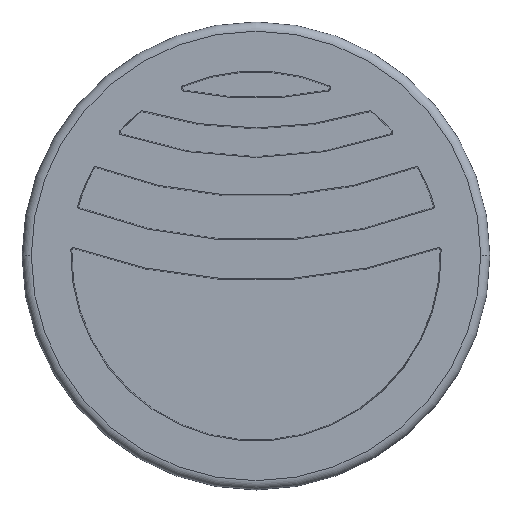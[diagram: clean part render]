
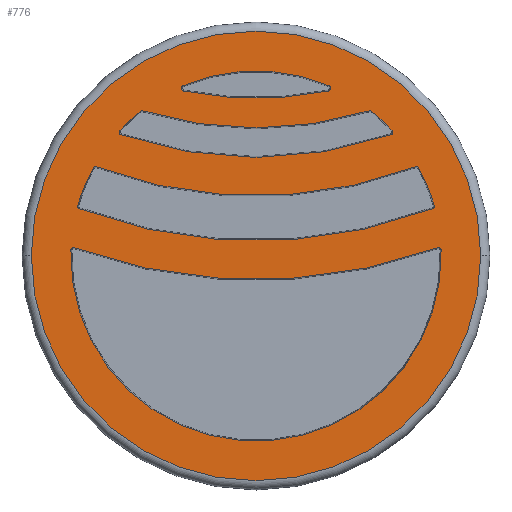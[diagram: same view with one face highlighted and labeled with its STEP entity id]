
A CAD part, top view. The second image highlights one B-rep face of the part: STEP entity #776.
In plain terms, the highlighted planar face has unit normal (0, 0, 1).
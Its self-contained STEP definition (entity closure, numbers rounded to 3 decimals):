
#117=CARTESIAN_POINT('',(-8.714,4.699,1.5));
#118=DIRECTION('',(0.,0.,-1.));
#119=DIRECTION('',(-0.88,0.475,0.));
#120=AXIS2_PLACEMENT_3D('',#117,#118,#119);
#166=CARTESIAN_POINT('',(0.,0.,1.5));
#167=DIRECTION('',(0.,0.,-1.));
#168=DIRECTION('',(1.,0.03,0.));
#169=AXIS2_PLACEMENT_3D('',#166,#167,#168);
#180=CARTESIAN_POINT('',(-9.523,2.706,1.5));
#181=DIRECTION('',(0.,0.,-1.));
#182=DIRECTION('',(-0.355,-0.935,0.));
#183=AXIS2_PLACEMENT_3D('',#180,#181,#182);
#193=CARTESIAN_POINT('',(9.523,2.706,1.5));
#194=DIRECTION('',(0.,0.,-1.));
#195=DIRECTION('',(0.962,0.273,0.));
#196=AXIS2_PLACEMENT_3D('',#193,#194,#195);
#198=CARTESIAN_POINT('',(0.,0.,1.5));
#199=DIRECTION('',(0.,0.,1.));
#200=DIRECTION('',(-1.,0.,0.));
#201=AXIS2_PLACEMENT_3D('',#198,#199,#200);
#203=CARTESIAN_POINT('',(0.,0.,1.5));
#204=DIRECTION('',(0.,0.,1.));
#205=DIRECTION('',(1.,0.,0.));
#206=AXIS2_PLACEMENT_3D('',#203,#204,#205);
#208=CARTESIAN_POINT('',(0.,0.,1.5));
#209=DIRECTION('',(0.,0.,-1.));
#210=DIRECTION('',(0.625,0.781,0.));
#211=AXIS2_PLACEMENT_3D('',#208,#209,#210);
#213=CARTESIAN_POINT('',(0.,27.8,1.5));
#214=DIRECTION('',(0.,0.,1.));
#215=DIRECTION('',(-0.294,-0.956,0.));
#216=AXIS2_PLACEMENT_3D('',#213,#214,#215);
#218=CARTESIAN_POINT('',(0.,0.,1.5));
#219=DIRECTION('',(0.,0.,-1.));
#220=DIRECTION('',(-0.734,0.679,0.));
#221=AXIS2_PLACEMENT_3D('',#218,#219,#220);
#223=CARTESIAN_POINT('',(0.,27.8,1.5));
#224=DIRECTION('',(0.,0.,-1.));
#225=DIRECTION('',(0.326,-0.945,0.));
#226=AXIS2_PLACEMENT_3D('',#223,#224,#225);
#228=CARTESIAN_POINT('',(0.,27.8,1.5));
#229=DIRECTION('',(0.,0.,-1.));
#230=DIRECTION('',(0.355,-0.935,0.));
#231=AXIS2_PLACEMENT_3D('',#228,#229,#230);
#233=CARTESIAN_POINT('',(0.,0.,1.5));
#234=DIRECTION('',(0.,0.,-1.));
#235=DIRECTION('',(0.88,0.475,0.));
#236=AXIS2_PLACEMENT_3D('',#233,#234,#235);
#238=CARTESIAN_POINT('',(0.,27.8,1.5));
#239=DIRECTION('',(0.,0.,1.));
#240=DIRECTION('',(-0.353,-0.936,0.));
#241=AXIS2_PLACEMENT_3D('',#238,#239,#240);
#243=CARTESIAN_POINT('',(0.,0.,1.5));
#244=DIRECTION('',(0.,0.,-1.));
#245=DIRECTION('',(-0.962,0.273,0.));
#246=AXIS2_PLACEMENT_3D('',#243,#244,#245);
#248=CARTESIAN_POINT('',(0.,27.8,1.5));
#249=DIRECTION('',(0.,0.,1.));
#250=DIRECTION('',(-0.339,-0.941,0.));
#251=AXIS2_PLACEMENT_3D('',#248,#249,#250);
#253=CARTESIAN_POINT('',(0.,27.8,1.5));
#254=DIRECTION('',(0.,0.,-1.));
#255=DIRECTION('',(0.204,-0.979,0.));
#256=AXIS2_PLACEMENT_3D('',#253,#254,#255);
#258=CARTESIAN_POINT('',(0.,0.,1.5));
#259=DIRECTION('',(0.,0.,-1.));
#260=DIRECTION('',(-0.393,0.919,0.));
#261=AXIS2_PLACEMENT_3D('',#258,#259,#260);
#301=CARTESIAN_POINT('',(6.184,7.731,1.5));
#302=DIRECTION('',(0.,0.,-1.));
#303=DIRECTION('',(-0.294,0.956,0.));
#304=AXIS2_PLACEMENT_3D('',#301,#302,#303);
#314=CARTESIAN_POINT('',(-6.184,7.731,1.5));
#315=DIRECTION('',(0.,0.,-1.));
#316=DIRECTION('',(-0.625,0.781,0.));
#317=AXIS2_PLACEMENT_3D('',#314,#315,#316);
#319=CARTESIAN_POINT('',(-7.271,6.719,1.5));
#320=DIRECTION('',(0.,0.,-1.));
#321=DIRECTION('',(-0.326,-0.945,0.));
#322=AXIS2_PLACEMENT_3D('',#319,#320,#321);
#332=CARTESIAN_POINT('',(7.271,6.719,1.5));
#333=DIRECTION('',(0.,0.,-1.));
#334=DIRECTION('',(0.734,0.679,0.));
#335=AXIS2_PLACEMENT_3D('',#332,#333,#334);
#337=CARTESIAN_POINT('',(8.714,4.699,1.5));
#338=DIRECTION('',(0.,0.,-1.));
#339=DIRECTION('',(-0.353,0.936,0.));
#340=AXIS2_PLACEMENT_3D('',#337,#338,#339);
#358=CARTESIAN_POINT('',(9.896,0.296,1.5));
#359=DIRECTION('',(0.,0.,-1.));
#360=DIRECTION('',(-0.339,0.941,0.));
#361=AXIS2_PLACEMENT_3D('',#358,#359,#360);
#363=CARTESIAN_POINT('',(-9.896,0.296,1.5));
#364=DIRECTION('',(0.,0.,-1.));
#365=DIRECTION('',(-1.,0.03,0.));
#366=AXIS2_PLACEMENT_3D('',#363,#364,#365);
#376=CARTESIAN_POINT('',(3.895,9.101,1.5));
#377=DIRECTION('',(0.,0.,-1.));
#378=DIRECTION('',(0.393,0.919,0.));
#379=AXIS2_PLACEMENT_3D('',#376,#377,#378);
#381=CARTESIAN_POINT('',(-3.895,9.101,1.5));
#382=DIRECTION('',(0.,0.,-1.));
#383=DIRECTION('',(-0.204,-0.979,0.));
#384=AXIS2_PLACEMENT_3D('',#381,#382,#383);
#390=CARTESIAN_POINT('',(-12.2,0.,1.5));
#391=CARTESIAN_POINT('',(12.2,0.,1.5));
#392=VERTEX_POINT('',#390);
#393=VERTEX_POINT('',#391);
#402=CARTESIAN_POINT('',(-8.848,4.771,1.5));
#403=VERTEX_POINT('',#402);
#404=CARTESIAN_POINT('',(-8.66,4.841,1.5));
#405=VERTEX_POINT('',#404);
#407=CARTESIAN_POINT('',(-7.383,6.822,1.5));
#409=VERTEX_POINT('',#407);
#412=CARTESIAN_POINT('',(-7.321,6.575,1.5));
#413=VERTEX_POINT('',#412);
#418=CARTESIAN_POINT('',(7.383,6.822,1.5));
#419=VERTEX_POINT('',#418);
#420=CARTESIAN_POINT('',(7.321,6.575,1.5));
#421=VERTEX_POINT('',#420);
#423=CARTESIAN_POINT('',(8.848,4.771,1.5));
#425=VERTEX_POINT('',#423);
#428=CARTESIAN_POINT('',(8.66,4.841,1.5));
#429=VERTEX_POINT('',#428);
#443=CARTESIAN_POINT('',(10.048,0.301,1.5));
#445=VERTEX_POINT('',#443);
#448=CARTESIAN_POINT('',(9.844,0.439,1.5));
#449=VERTEX_POINT('',#448);
#452=CARTESIAN_POINT('',(9.67,2.748,1.5));
#453=VERTEX_POINT('',#452);
#454=CARTESIAN_POINT('',(9.577,2.564,1.5));
#455=VERTEX_POINT('',#454);
#456=CARTESIAN_POINT('',(6.279,7.85,1.5));
#457=VERTEX_POINT('',#456);
#460=CARTESIAN_POINT('',(6.139,7.877,1.5));
#461=VERTEX_POINT('',#460);
#464=CARTESIAN_POINT('',(3.955,9.242,1.5));
#465=VERTEX_POINT('',#464);
#466=CARTESIAN_POINT('',(3.926,8.952,1.5));
#467=VERTEX_POINT('',#466);
#468=CARTESIAN_POINT('',(-3.955,9.242,1.5));
#469=VERTEX_POINT('',#468);
#472=CARTESIAN_POINT('',(-3.926,8.952,1.5));
#473=VERTEX_POINT('',#472);
#476=CARTESIAN_POINT('',(-6.279,7.85,1.5));
#477=VERTEX_POINT('',#476);
#478=CARTESIAN_POINT('',(-6.139,7.877,1.5));
#479=VERTEX_POINT('',#478);
#480=CARTESIAN_POINT('',(-9.67,2.748,1.5));
#481=VERTEX_POINT('',#480);
#484=CARTESIAN_POINT('',(-9.577,2.564,1.5));
#485=VERTEX_POINT('',#484);
#490=CARTESIAN_POINT('',(-10.048,0.301,1.5));
#491=VERTEX_POINT('',#490);
#492=CARTESIAN_POINT('',(-9.844,0.439,1.5));
#493=VERTEX_POINT('',#492);
#719=CARTESIAN_POINT('',(0.,0.,1.5));
#720=DIRECTION('',(0.,0.,1.));
#721=DIRECTION('',(1.,0.,0.));
#722=AXIS2_PLACEMENT_3D('',#719,#720,#721);
#723=PLANE('',#722);
#725=ORIENTED_EDGE('',*,*,#724,.F.);
#727=ORIENTED_EDGE('',*,*,#726,.F.);
#728=EDGE_LOOP('',(#725,#727));
#729=FACE_OUTER_BOUND('',#728,.F.);
#730=ORIENTED_EDGE('',*,*,#628,.F.);
#732=ORIENTED_EDGE('',*,*,#731,.F.);
#734=ORIENTED_EDGE('',*,*,#733,.F.);
#736=ORIENTED_EDGE('',*,*,#735,.F.);
#737=ORIENTED_EDGE('',*,*,#610,.F.);
#739=ORIENTED_EDGE('',*,*,#738,.F.);
#741=ORIENTED_EDGE('',*,*,#740,.F.);
#743=ORIENTED_EDGE('',*,*,#742,.F.);
#744=EDGE_LOOP('',(#730,#732,#734,#736,#737,#739,#741,#743));
#745=FACE_BOUND('',#744,.F.);
#746=ORIENTED_EDGE('',*,*,#699,.F.);
#747=ORIENTED_EDGE('',*,*,#713,.F.);
#748=ORIENTED_EDGE('',*,*,#640,.F.);
#750=ORIENTED_EDGE('',*,*,#749,.F.);
#752=ORIENTED_EDGE('',*,*,#751,.F.);
#753=ORIENTED_EDGE('',*,*,#582,.F.);
#754=ORIENTED_EDGE('',*,*,#598,.F.);
#755=ORIENTED_EDGE('',*,*,#687,.F.);
#756=EDGE_LOOP('',(#746,#747,#748,#750,#752,#753,#754,#755));
#757=FACE_BOUND('',#756,.F.);
#759=ORIENTED_EDGE('',*,*,#758,.F.);
#761=ORIENTED_EDGE('',*,*,#760,.F.);
#762=ORIENTED_EDGE('',*,*,#670,.F.);
#764=ORIENTED_EDGE('',*,*,#763,.F.);
#765=EDGE_LOOP('',(#759,#761,#762,#764));
#766=FACE_BOUND('',#765,.F.);
#768=ORIENTED_EDGE('',*,*,#767,.F.);
#770=ORIENTED_EDGE('',*,*,#769,.F.);
#771=ORIENTED_EDGE('',*,*,#656,.F.);
#773=ORIENTED_EDGE('',*,*,#772,.F.);
#774=EDGE_LOOP('',(#768,#770,#771,#773));
#775=FACE_BOUND('',#774,.F.);
#776=ADVANCED_FACE('',(#729,#745,#757,#766,#775),#723,.T.);
#121=CIRCLE('',#120,0.152);
#170=CIRCLE('',#169,10.052);
#184=CIRCLE('',#183,0.152);
#197=CIRCLE('',#196,0.152);
#202=CIRCLE('',#201,12.2);
#207=CIRCLE('',#206,12.2);
#212=CIRCLE('',#211,10.052);
#217=CIRCLE('',#216,20.848);
#222=CIRCLE('',#221,10.052);
#227=CIRCLE('',#226,22.452);
#232=CIRCLE('',#231,26.992);
#237=CIRCLE('',#236,10.052);
#242=CIRCLE('',#241,24.538);
#247=CIRCLE('',#246,10.052);
#252=CIRCLE('',#251,29.078);
#257=CIRCLE('',#256,19.252);
#262=CIRCLE('',#261,10.052);
#305=CIRCLE('',#304,0.152);
#318=CIRCLE('',#317,0.152);
#323=CIRCLE('',#322,0.152);
#336=CIRCLE('',#335,0.152);
#341=CIRCLE('',#340,0.152);
#362=CIRCLE('',#361,0.152);
#367=CIRCLE('',#366,0.152);
#380=CIRCLE('',#379,0.152);
#385=CIRCLE('',#384,0.152);
#582=EDGE_CURVE('',#403,#405,#121,.T.);
#598=EDGE_CURVE('',#481,#403,#247,.T.);
#610=EDGE_CURVE('',#409,#477,#222,.T.);
#628=EDGE_CURVE('',#457,#419,#212,.T.);
#640=EDGE_CURVE('',#425,#453,#237,.T.);
#656=EDGE_CURVE('',#469,#465,#262,.T.);
#670=EDGE_CURVE('',#445,#491,#170,.T.);
#687=EDGE_CURVE('',#485,#481,#184,.T.);
#699=EDGE_CURVE('',#455,#485,#232,.T.);
#713=EDGE_CURVE('',#453,#455,#197,.T.);
#724=EDGE_CURVE('',#392,#393,#202,.T.);
#726=EDGE_CURVE('',#393,#392,#207,.T.);
#731=EDGE_CURVE('',#461,#457,#305,.T.);
#733=EDGE_CURVE('',#479,#461,#217,.T.);
#735=EDGE_CURVE('',#477,#479,#318,.T.);
#738=EDGE_CURVE('',#413,#409,#323,.T.);
#740=EDGE_CURVE('',#421,#413,#227,.T.);
#742=EDGE_CURVE('',#419,#421,#336,.T.);
#749=EDGE_CURVE('',#429,#425,#341,.T.);
#751=EDGE_CURVE('',#405,#429,#242,.T.);
#758=EDGE_CURVE('',#493,#449,#252,.T.);
#760=EDGE_CURVE('',#491,#493,#367,.T.);
#763=EDGE_CURVE('',#449,#445,#362,.T.);
#767=EDGE_CURVE('',#467,#473,#257,.T.);
#769=EDGE_CURVE('',#465,#467,#380,.T.);
#772=EDGE_CURVE('',#473,#469,#385,.T.);
